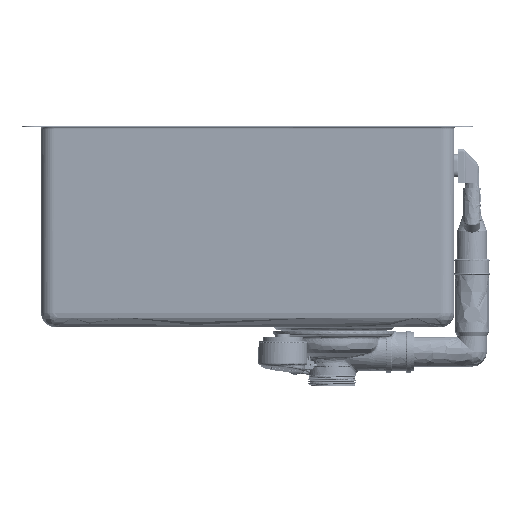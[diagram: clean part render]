
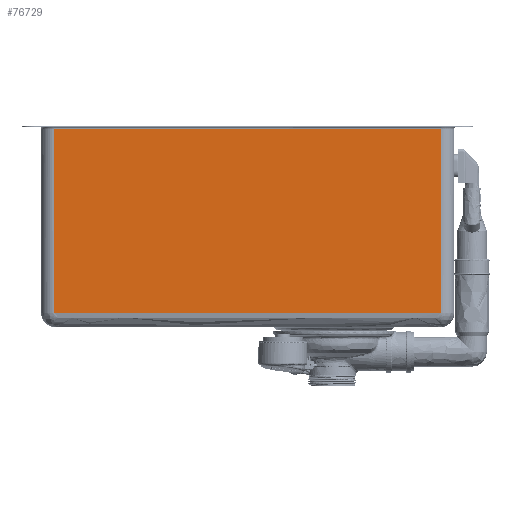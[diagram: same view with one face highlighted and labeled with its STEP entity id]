
A CAD part, left-side view. The second image highlights one B-rep face of the part: STEP entity #76729.
In plain terms, the highlighted planar face has unit normal (-1, 0, 0).
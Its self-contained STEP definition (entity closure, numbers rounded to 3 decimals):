
#76729=ADVANCED_FACE('',(#82530),#208835,.T.);
#82530=FACE_OUTER_BOUND('',#88717,.T.);
#88717=EDGE_LOOP('',(#119723,#119724,#119725,#119726));
#119723=ORIENTED_EDGE('',*,*,#150620,.T.);
#119724=ORIENTED_EDGE('',*,*,#150621,.T.);
#119725=ORIENTED_EDGE('',*,*,#150622,.T.);
#119726=ORIENTED_EDGE('',*,*,#150623,.T.);
#150620=EDGE_CURVE('',#205268,#205269,#174936,.T.);
#150621=EDGE_CURVE('',#205269,#205270,#174937,.T.);
#150622=EDGE_CURVE('',#205270,#205271,#174938,.T.);
#150623=EDGE_CURVE('',#205271,#205268,#174939,.T.);
#174936=B_SPLINE_CURVE_WITH_KNOTS('',1,(#403640,#403641),.UNSPECIFIED.,
 .F.,.F.,(2,2),(-1.,0.),.UNSPECIFIED.);
#174937=B_SPLINE_CURVE_WITH_KNOTS('',1,(#403642,#403643),.UNSPECIFIED.,
 .F.,.F.,(2,2),(0.,1.),.UNSPECIFIED.);
#174938=B_SPLINE_CURVE_WITH_KNOTS('',1,(#403644,#403645),.UNSPECIFIED.,
 .F.,.F.,(2,2),(-1.,0.),.UNSPECIFIED.);
#174939=B_SPLINE_CURVE_WITH_KNOTS('',1,(#403646,#403647),.UNSPECIFIED.,
 .F.,.F.,(2,2),(-1.,0.),.UNSPECIFIED.);
#205268=VERTEX_POINT('',#403636);
#205269=VERTEX_POINT('',#403637);
#205270=VERTEX_POINT('',#403638);
#205271=VERTEX_POINT('',#403639);
#208835=PLANE('',#212134);
#212134=AXIS2_PLACEMENT_3D('',#403635,#215417,$);
#215417=DIRECTION('',(-1.,0.,0.));
#403635=CARTESIAN_POINT('',(-226.,231.612,-203.851));
#403636=CARTESIAN_POINT('',(-226.,-193.,-2.));
#403637=CARTESIAN_POINT('',(-226.,193.,-2.));
#403638=CARTESIAN_POINT('',(-226.,193.,-185.49));
#403639=CARTESIAN_POINT('',(-226.,-193.,-185.49));
#403640=CARTESIAN_POINT('',(-226.,-193.,-2.));
#403641=CARTESIAN_POINT('',(-226.,193.,-2.));
#403642=CARTESIAN_POINT('',(-226.,193.,-2.));
#403643=CARTESIAN_POINT('',(-226.,193.,-185.49));
#403644=CARTESIAN_POINT('',(-226.,193.,-185.49));
#403645=CARTESIAN_POINT('',(-226.,-193.,-185.49));
#403646=CARTESIAN_POINT('',(-226.,-193.,-185.49));
#403647=CARTESIAN_POINT('',(-226.,-193.,-2.));
